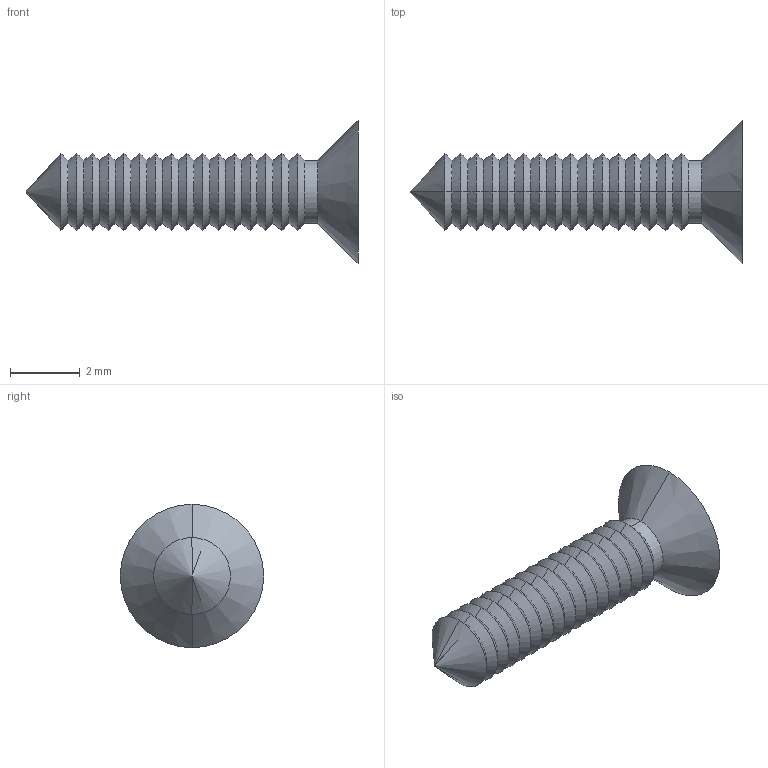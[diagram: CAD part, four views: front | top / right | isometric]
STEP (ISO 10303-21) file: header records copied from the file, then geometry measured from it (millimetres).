
FILE_DESCRIPTION (( 'STEP AP214' ), '1' );
FILE_NAME ('Cargol 2,2x9,5 PP9.STEP', '2017-07-17T09:20:18', ( 'aaa' ), ( '' ), 'SwSTEP 2.0', 'SolidWorks 2013', '' );
FILE_SCHEMA (( 'AUTOMOTIVE_DESIGN' ));
Length unit declared in the file: millimetre
Products named in the file (1): Cargol 2,2x9,5 PP9
Bounding box: 9.5 x 4.1 x 4.1 mm (x, y, z)
Volume: 32 mm3; surface area: 96.8 mm2
Topology: 1 solids, 1 shells, 82 faces, 174 edges, 93 vertices
Faces by surface type: cone 66, plane 14, cylinder 2
Entity records: 2158 total; most frequent: DIRECTION 406, CARTESIAN_POINT 348, ORIENTED_EDGE 344, EDGE_CURVE 172, AXIS2_PLACEMENT_3D 151, VECTOR 104, LINE 104, VERTEX_POINT 93
